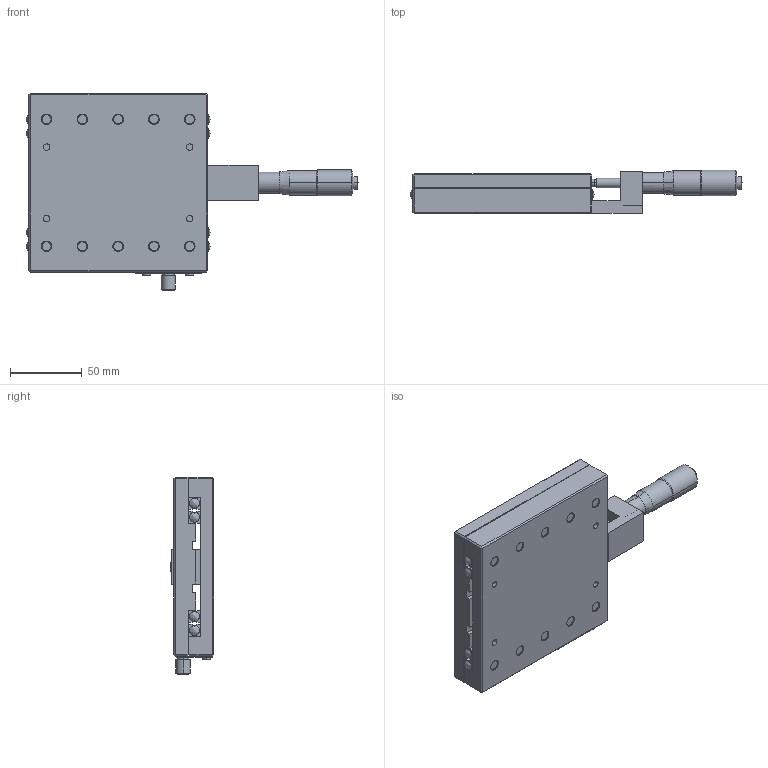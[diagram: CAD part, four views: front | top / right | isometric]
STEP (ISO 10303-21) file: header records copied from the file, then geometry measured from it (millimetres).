
FILE_DESCRIPTION (( 'STEP AP203' ), '1' );
FILE_NAME ('MX125-C.STEP', '2026-04-09T03:38:39', ( '' ), ( '' ), 'SwSTEP 2.0', 'SolidWorks 2021', '' );
FILE_SCHEMA (( 'CONFIG_CONTROL_DESIGN' ));
Length unit declared in the file: millimetre
Products named in the file (4): MX125-C; L125-C_SG; MT_WT_25_P_18; L125-C_XG
Assembly tree (3 placements, depth 2):
  MX125-C
    L125-C_XG
    L125-C_SG
    MT_WT_25_P_18
Bounding box: 231.86 x 30.5 x 137.8 mm (x, y, z)
Volume: 422461.1 mm3; surface area: 104184.7 mm2
Topology: 3 solids, 3 shells, 491 faces, 1122 edges, 711 vertices
Faces by surface type: plane 215, cylinder 202, bspline 48, cone 22, torus 4
Entity records: 14813 total; most frequent: CARTESIAN_POINT 3166, DIRECTION 2471, ORIENTED_EDGE 2236, EDGE_CURVE 1118, AXIS2_PLACEMENT_3D 944, VERTEX_POINT 711, EDGE_LOOP 583, VECTOR 583
